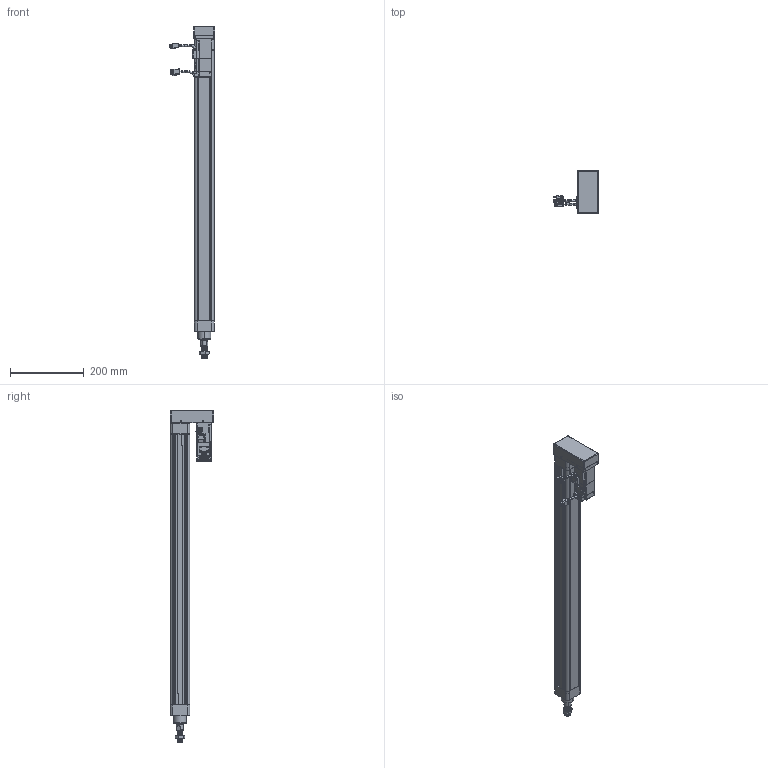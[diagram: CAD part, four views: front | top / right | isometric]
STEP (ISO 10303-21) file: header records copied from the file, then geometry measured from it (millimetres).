
FILE_DESCRIPTION (( 'STEP AP203' ), '1' );
FILE_NAME ('VEC50-10-C-650-MF-ZP10B-MS2.STEP', '2019-01-26T03:31:27', ( 'vobosh 6' ), ( 'Microsoft' ), 'SwSTEP 2.0', 'SolidWorks 2016', '' );
FILE_SCHEMA (( 'CONFIG_CONTROL_DESIGN' ));
Length unit declared in the file: millimetre
Products named in the file (12): VEC50-MF-200-011-X1; CS1-M; 鞠褒蹟譫M16x1.5; VEC50-MF-200-004-X1; VEC50-MF-200-001-X1; MHMF012L1V2; VEC50-MF-200-002-X1; VEC50-MF-200-005-X1; VEC50-MF-200-003-X1; VEC50-10-C-650-MF-ZP10B-MS2; 带尾螺母M6x9x45（镀镍）; 柈ч肣薦え耳9x耳8.5x4.4
Assembly tree (20 placements, depth 2):
  VEC50-10-C-650-MF-ZP10B-MS2
    VEC50-MF-200-001-X1
    VEC50-MF-200-002-X1
    VEC50-MF-200-003-X1
    带尾螺母M6x9x45（镀镍）  x8
    柈ч肣薦え耳9x耳8.5x4.4  x2
    VEC50-MF-200-011-X1
    CS1-M  x2
    鞠褒蹟譫M16x1.5
    VEC50-MF-200-004-X1
    MHMF012L1V2
    VEC50-MF-200-005-X1
Bounding box: 122.5 x 118 x 899 mm (x, y, z)
Volume: 1327526.9 mm3; surface area: 478808.1 mm2
Topology: 27 solids, 27 shells, 1970 faces, 4861 edges, 3048 vertices
Faces by surface type: plane 902, cylinder 703, cone 239, bspline 117, torus 9
Entity records: 59744 total; most frequent: CARTESIAN_POINT 16772, DIRECTION 8631, ORIENTED_EDGE 8630, EDGE_CURVE 4315, AXIS2_PLACEMENT_3D 2988, VERTEX_POINT 2755, LINE 2655, VECTOR 2655
